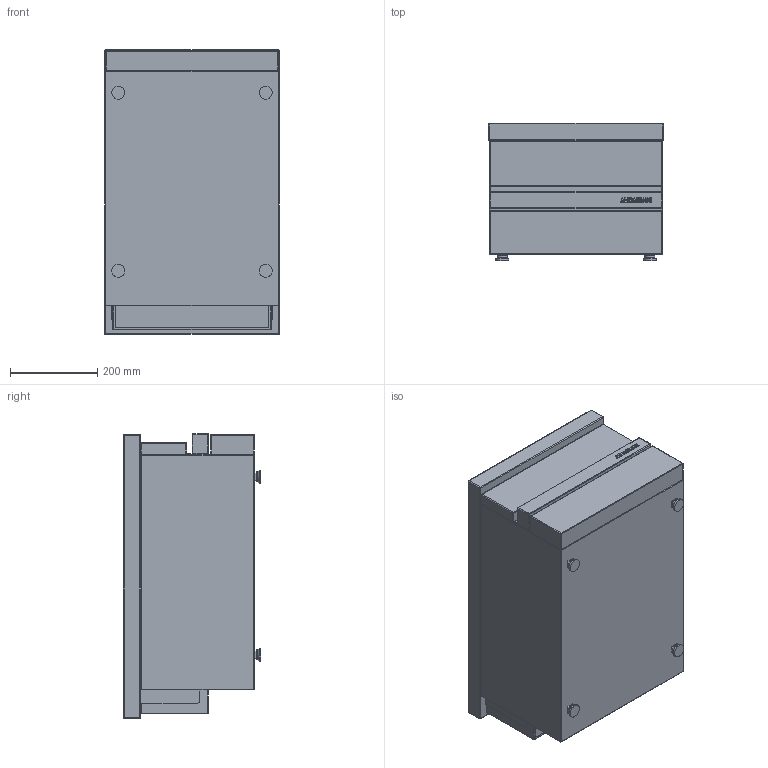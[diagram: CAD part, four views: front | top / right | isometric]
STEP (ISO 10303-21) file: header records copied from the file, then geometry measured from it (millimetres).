
FILE_DESCRIPTION((''),'2;1');
FILE_NAME('CSA400P_EXPORT_STEP_ASM','2017-11-22T',('r.avril'),(''),'PRO/ENGINEER BY PARAMETRIC TECHNOLOGY CORPORATION, 2014200','PRO/ENGINEER BY PARAMETRIC TECHNOLOGY CORPORATION, 2014200','');
FILE_SCHEMA(('AP203_CONFIGURATION_CONTROLLED_3D_DESIGN_OF_MECHANICAL_PARTS_AND_ASSEMBLIES_MIM_LF { 1 0 10303 403 2 1 2 }'));
Length unit declared in the file: millimetre
Products named in the file (3): SNACKS_AMB_400_EXPORT_STEP; TABLE_400_NEUTRE; CSA400P_EXPORT_STEP_ASM
Assembly tree (2 placements, depth 2):
  CSA400P_EXPORT_STEP_ASM
    SNACKS_AMB_400_EXPORT_STEP
    TABLE_400_NEUTRE
Bounding box: 400 x 315 x 652.1 mm (x, y, z)
Volume: 32958211.9 mm3; surface area: 2219445.7 mm2
Topology: 5 solids, 23 shells, 249 faces, 1208 edges, 1235 vertices
Faces by surface type: plane 118, cylinder 87, sphere 36, cone 8
Entity records: 14351 total; most frequent: CARTESIAN_POINT 4187, DIRECTION 1593, ORIENTED_EDGE 1483, EDGE_CURVE 966, VERTEX_POINT 751, VECTOR 586, LINE 586, AXIS2_PLACEMENT_3D 499
